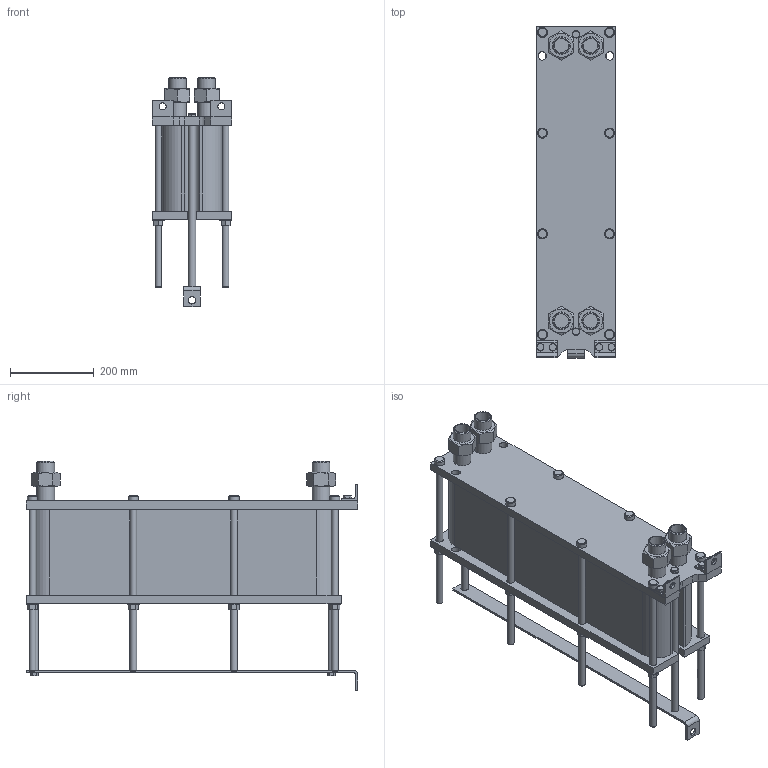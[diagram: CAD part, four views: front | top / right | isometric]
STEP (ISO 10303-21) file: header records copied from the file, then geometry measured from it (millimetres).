
FILE_DESCRIPTION(/* description */ (''),/* implementation_level */ '2;1');
FILE_NAME(/* name */ 'C:\Users\zhuro\Desktop\ENCO\TO\ЭН-008\ЭН-0,5-008-66-1.stp',/* time_stamp */ '2022-06-06T10:51:03+03:00',/* author */ ('zhuro'),/* organization */ (''),/* preprocessor_version */ 'ST-DEVELOPER v18.1',/* originating_system */ 'Autodesk Inventor 2022',/* authorisation */ '');
FILE_SCHEMA (('AUTOMOTIVE_DESIGN { 1 0 10303 214 3 1 1 }'));
Length unit declared in the file: millimetre
Products named in the file (1): ЭН-0,5-008-66-1
Bounding box: 190 x 790 x 545.8 mm (x, y, z)
Volume: 27683782.9 mm3; surface area: 1733924.6 mm2
Topology: 40 solids, 40 shells, 428 faces, 924 edges, 606 vertices
Faces by surface type: plane 273, cylinder 109, cone 40, torus 6
Full cylindrical faces by diameter (mm): 12 x6, 14 x2, 16 x20, 17 x8, 18 x19, 20 x5, 24 x8, 28 x8, 34.3 x8, 42.3 x8
Entity records: 15843 total; most frequent: CARTESIAN_POINT 5991, DIRECTION 1984, ORIENTED_EDGE 1848, EDGE_CURVE 924, AXIS2_PLACEMENT_3D 715, VERTEX_POINT 606, LINE 554, VECTOR 554
